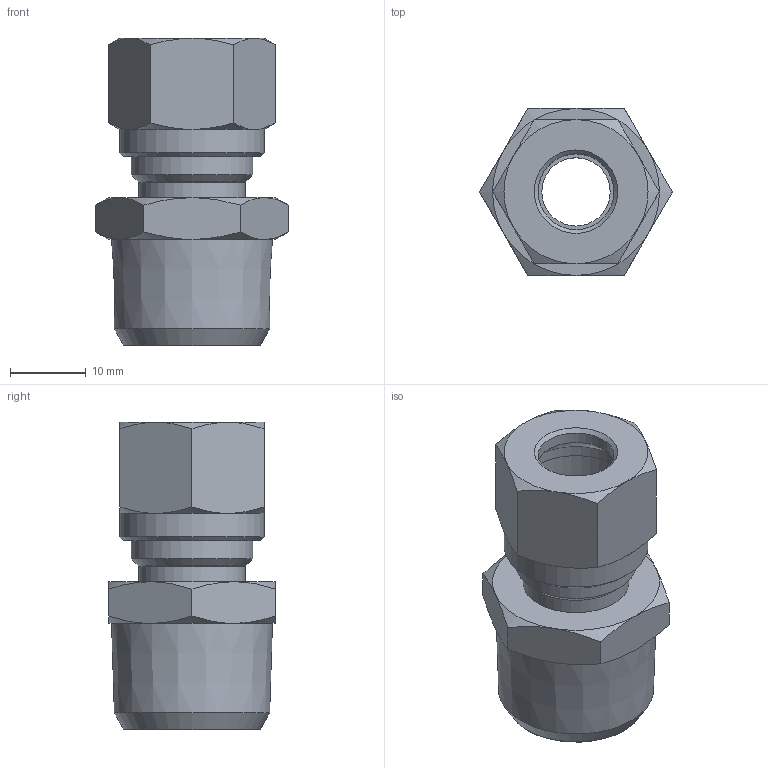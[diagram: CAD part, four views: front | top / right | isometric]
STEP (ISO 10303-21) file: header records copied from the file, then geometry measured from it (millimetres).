
FILE_DESCRIPTION(('Bauteilbeschreibung','HiCAD-Model','HiCAD-STEP-TRANSLATION','Bauteilbeschreibung'),'2;1');
FILE_NAME('B:/ABGLEICH/ZEICHNUNGEN/STEP FÜR INTERNET/STEP/201/94809_201_10_1-2.STP','2011-11-10T11:40:23+00:00',('Konstrukteur'),('Konstrukteur Firma GmbH'),' HiCAD neXt 2008, Step 3.1.1401.2J ','HiCAD neXt 2008','confidential');
FILE_SCHEMA(('AUTOMOTIVE_DESIGN { 1 2 10303 214 0 1 1 1 }'));
Length unit declared in the file: millimetre
Products named in the file (8): A4809_201_10_1_2; A6804; A68040; DIN 13_M16X1_5; A4809; A48090; DIN0130M16X105; R 1_2_14
Assembly tree (7 placements, depth 3):
  A4809_201_10_1_2
    A6804
    A68040
      DIN 13_M16X1_5
    A4809
    A48090
      DIN0130M16X105
      R 1_2_14
Bounding box: 25.4 x 22 x 40.5 mm (x, y, z)
Volume: 7380.6 mm3; surface area: 9140 mm2
Topology: 5 solids, 5 shells, 76 faces, 163 edges, 97 vertices
Faces by surface type: cone 41, plane 22, cylinder 13
Full cylindrical faces by diameter (mm): 9 x1, 10 x2, 14 x1, 14.16 x4, 15 x1, 16 x3, 19 x1
Entity records: 2571 total; most frequent: CARTESIAN_POINT 394, DIRECTION 316, ORIENTED_EDGE 244, AXIS2_PLACEMENT_3D 152, COLOUR_RGB 127, PRESENTATION_STYLE_ASSIGNMENT 127, CURVE_STYLE 122, DRAUGHTING_PRE_DEFINED_CURVE_FONT 122
